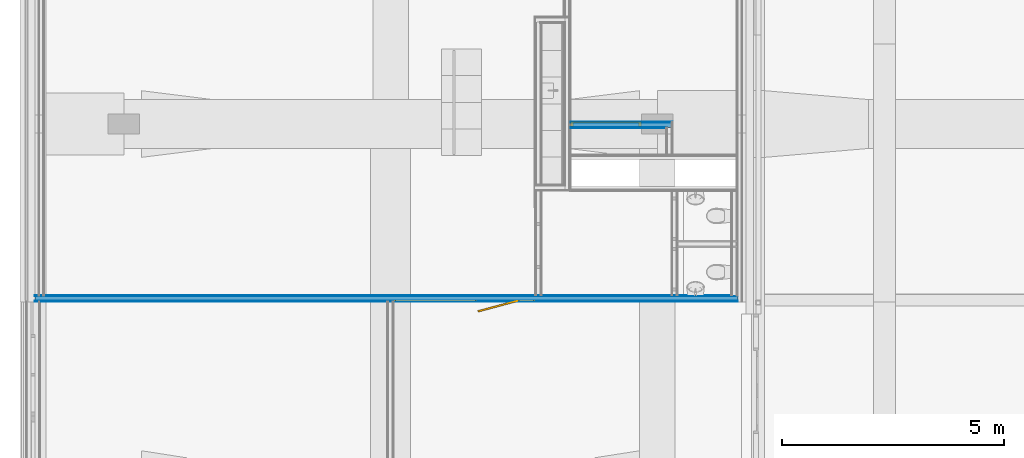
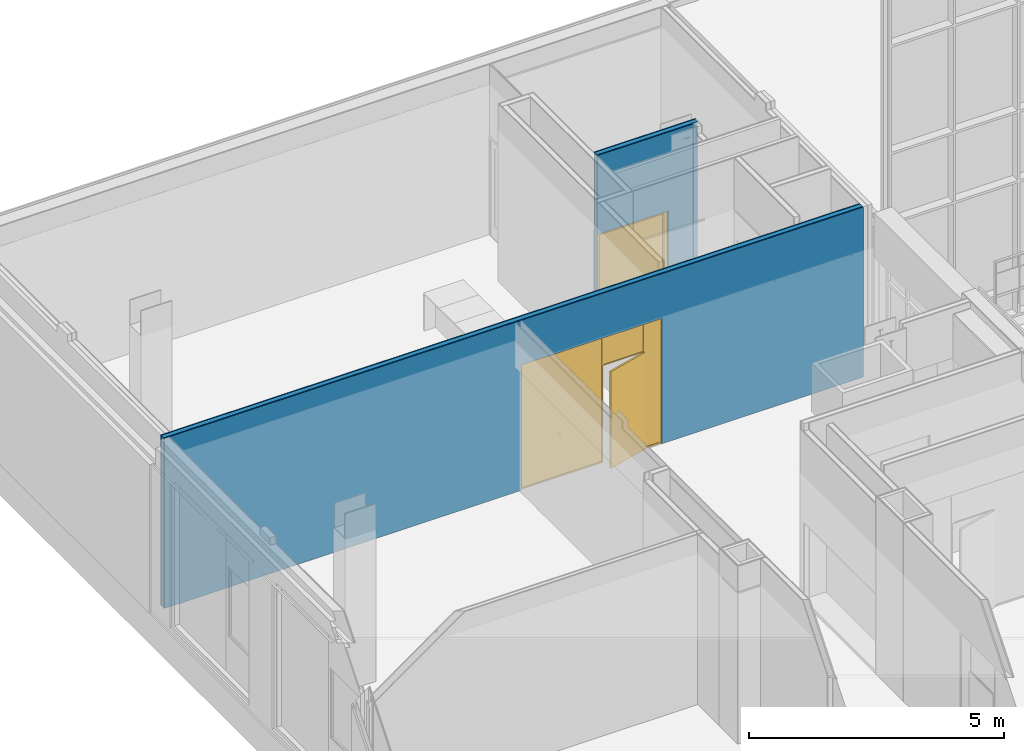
# One storey, part 72 of 94: 10 building element parts, 2 doors, 2 openings, 2 elements without a shape of their own.
"""IFC2X3 building model written with IfcOpenShell, lengths in millimetres."""

from ifc_helpers import new_model, entity, si_unit, converted_unit, derived_unit, money_unit, direction, frame, origin_with_axes, place, context, subcontext, project, spatial, open_shell, faceted_brep, surface_model, material, type_object, element, fill, aggregate, save


model = new_model("IFC2X3")

# Units and contexts
model_context = context("Model", 3, precision=0.01, world=origin_with_axes(), true_north=direction((0.0, 1.0)))
body_context = subcontext(model_context, "Body", "Model", "MODEL_VIEW")
ifc_project = project(units=[si_unit("LENGTHUNIT", "METRE", prefix="MILLI"), si_unit("AREAUNIT", "SQUARE_METRE"), si_unit("VOLUMEUNIT", "CUBIC_METRE"), converted_unit("PLANEANGLEUNIT", "DEGREE", entity("IfcPlaneAngleMeasure", 0.0174532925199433), si_unit("PLANEANGLEUNIT", "RADIAN"), dimensions=[0, 0, 0, 0, 0, 0, 0]), money_unit("EUR"), converted_unit("TIMEUNIT", "Year", entity("IfcTimeMeasure", 31557600.0), si_unit("TIMEUNIT", "SECOND"), dimensions=[0, 0, 1, 0, 0, 0, 0]), si_unit("MASSUNIT", "GRAM", prefix="KILO"), si_unit("THERMODYNAMICTEMPERATUREUNIT", "DEGREE_CELSIUS"), si_unit("LUMINOUSINTENSITYUNIT", "LUMEN"), si_unit("ENERGYUNIT", "JOULE", prefix="MEGA"), derived_unit("THERMALCONDUCTANCEUNIT", [(si_unit("POWERUNIT", "WATT"), 1), (si_unit("LENGTHUNIT", "METRE"), -1), (si_unit("THERMODYNAMICTEMPERATUREUNIT", "KELVIN"), -1)]), derived_unit("SPECIFICHEATCAPACITYUNIT", [(si_unit("ENERGYUNIT", "JOULE"), 1), (si_unit("MASSUNIT", "GRAM", prefix="KILO"), -1), (si_unit("THERMODYNAMICTEMPERATUREUNIT", "KELVIN"), -1)]), derived_unit("MASSDENSITYUNIT", [(si_unit("MASSUNIT", "GRAM", prefix="KILO"), 1), (si_unit("VOLUMEUNIT", "CUBIC_METRE"), -1)])], contexts=[model_context])

# Site, building, storey
site_placement = place(None, origin_with_axes())
site = spatial("IfcSite", under=ifc_project, at=site_placement, Name="<site naam>", CompositionType="ELEMENT")
building_placement = place(site_placement, origin_with_axes())
building = spatial("IfcBuilding", under=site, at=building_placement, Name="<Naam gebouw>", CompositionType="ELEMENT")
storey_placement = place(building_placement, frame((0.0, 0.0, 4250.0), z_axis=(0.0, 0.0, 1.0), x_axis=(1.0, 0.0, 0.0)))
storey = spatial("IfcBuildingStorey", under=building, at=storey_placement, Name="01 1e verdieping", CompositionType="ELEMENT", Elevation=4250.0)

# Door
door_style_1 = type_object("IfcDoorStyle", Name="D1 bl zl2 27", ConstructionType="NOTDEFINED", OperationType="USERDEFINED", ParameterTakesPrecedence=False, Sizeable=False)
wall_2_placement = place(storey_placement, frame((4000.044467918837, 12000.00000000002, 0.0), z_axis=(0.0, 0.0, 1.0), x_axis=(-1.0, 0.0, 0.0)))
opening_2_placement = place(wall_2_placement, frame((6337.521559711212, 0.0, 0.0), z_axis=(0.0, 0.0, 1.0), x_axis=(1.0, 0.0, 0.0)))
door_1_placement = place(opening_2_placement, frame((-1587.521530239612, 0.0, 0.0), z_axis=(0.0, 0.0, 1.0), x_axis=(1.0, 0.0, 0.0)))
door_1 = element("IfcDoor", 1, at=door_1_placement, inside=storey, type_object=door_style_1, Name="22_BI-F-14_305", ObjectType="DOOR", OverallHeight=3000.0, OverallWidth=3175.04, context=body_context, shape_type="SurfaceModel", body=[
    faceted_brep([(3175.043060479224, -25.00000000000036, 0.0), (3175.043060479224, -44.99999999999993, 0.0), (3142.043060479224, -44.99999999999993, 0.0), (3142.043060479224, -25.00000000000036, 0.0), (3175.043060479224, -25.00000000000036, 2967.0), (3175.043060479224, -44.99999999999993, 2967.0), (3142.043060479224, -44.99999999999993, 2967.0), (3142.043060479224, -44.99999999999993, 33.00000000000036), (3142.043060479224, -25.00000000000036, 33.00000000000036), (3142.043060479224, -25.00000000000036, 2967.0)], [[[0, 1, 2, 3]], [[4, 5, 1, 0]], [[1, 5, 6, 7, 2]], [[3, 2, 7, 8]], [[0, 3, 8, 9, 4]], [[9, 6, 5, 4]], [[8, 7, 6, 9]]]),
    faceted_brep([(1317.312980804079, -44.99999999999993, 0.0), (1342.312980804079, -44.99999999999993, 0.0), (1342.312980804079, -44.99999999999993, 32.99999999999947), (1342.312980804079, -44.99999999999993, 2967.0), (1300.312980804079, -44.99999999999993, 2967.0), (1300.312980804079, -44.99999999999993, 2333.0), (1300.312980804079, -44.99999999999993, 2317.0), (1317.312980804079, -44.99999999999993, 2317.0), (1317.312980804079, -25.00000000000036, 0.0), (1342.312980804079, -25.00000000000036, 0.0), (1342.312980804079, -25.00000000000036, 32.99999999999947), (1342.312980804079, -25.00000000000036, 2967.0), (1300.312980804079, -25.00000000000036, 2967.0), (1300.312980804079, -25.00000000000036, 2333.0), (1300.312980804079, -25.00000000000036, 2317.0), (1317.312980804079, -25.00000000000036, 2317.0)], [[[0, 1, 2, 3, 4, 5, 6, 7]], [[8, 9, 1, 0]], [[9, 10, 2, 1]], [[10, 11, 3, 2]], [[11, 12, 4, 3]], [[12, 13, 5, 4]], [[6, 5, 13, 14]], [[14, 15, 7, 6]], [[7, 15, 8, 0]], [[15, 14, 13, 12, 11, 10, 9, 8]]]),
    faceted_brep([(3142.043060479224, -25.00000000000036, 33.00000000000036), (3142.043060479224, -44.99999999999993, 33.00000000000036), (3142.043060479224, -44.99999999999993, 0.0), (3142.043060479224, -25.00000000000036, 0.0), (1342.312980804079, -25.00000000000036, 33.00000000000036), (1342.312980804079, -44.99999999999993, 33.00000000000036), (1342.312980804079, -44.99999999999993, 0.0), (1342.312980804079, -25.00000000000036, 0.0)], [[[0, 1, 2, 3]], [[4, 5, 1, 0]], [[1, 5, 6, 2]], [[3, 2, 6, 7]], [[0, 3, 7, 4]], [[7, 6, 5, 4]]]),
    faceted_brep([(0.0, -25.00000000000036, 0.0), (0.0, -44.99999999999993, 0.0), (0.0, -44.99999999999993, 2967.0), (0.0, -25.00000000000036, 2967.0), (32.99999999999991, -25.00000000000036, 0.0), (32.99999999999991, -44.99999999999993, 0.0), (32.99999999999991, -44.99999999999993, 33.00000000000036), (32.99999999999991, -44.99999999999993, 2967.0), (32.99999999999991, -25.00000000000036, 2967.0), (32.99999999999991, -25.00000000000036, 33.00000000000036)], [[[0, 1, 2, 3]], [[4, 5, 1, 0]], [[1, 5, 6, 7, 2]], [[3, 2, 7, 8]], [[0, 3, 8, 9, 4]], [[9, 6, 5, 4]], [[8, 7, 6, 9]]]),
    faceted_brep([(383.3129808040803, -44.99999999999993, 2317.0), (400.3129808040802, -44.99999999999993, 2317.0), (400.3129808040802, -44.99999999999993, 2333.0), (400.3129808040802, -44.99999999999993, 2967.0), (358.3129808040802, -44.99999999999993, 2967.0), (358.3129808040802, -44.99999999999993, 32.99999999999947), (358.3129808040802, -44.99999999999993, 0.0), (383.3129808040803, -44.99999999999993, 0.0), (383.3129808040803, -25.00000000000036, 2317.0), (400.3129808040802, -25.00000000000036, 2317.0), (400.3129808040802, -25.00000000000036, 2333.0), (400.3129808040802, -25.00000000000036, 2967.0), (358.3129808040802, -25.00000000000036, 2967.0), (358.3129808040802, -25.00000000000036, 32.99999999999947), (358.3129808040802, -25.00000000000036, 0.0), (383.3129808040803, -25.00000000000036, 0.0)], [[[0, 1, 2, 3, 4, 5, 6, 7]], [[0, 8, 9, 1]], [[9, 10, 2, 1]], [[10, 11, 3, 2]], [[11, 12, 4, 3]], [[12, 13, 5, 4]], [[13, 14, 6, 5]], [[7, 6, 14, 15]], [[7, 15, 8, 0]], [[8, 15, 14, 13, 12, 11, 10, 9]]]),
    faceted_brep([(358.3129808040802, -25.00000000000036, 33.00000000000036), (358.3129808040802, -44.99999999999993, 33.00000000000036), (358.3129808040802, -44.99999999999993, 0.0), (358.3129808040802, -25.00000000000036, 0.0), (32.99999999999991, -25.00000000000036, 33.00000000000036), (32.99999999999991, -44.99999999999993, 33.00000000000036), (32.99999999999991, -44.99999999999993, 0.0), (32.99999999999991, -25.00000000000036, 0.0)], [[[0, 1, 2, 3]], [[4, 5, 1, 0]], [[1, 5, 6, 2]], [[3, 2, 6, 7]], [[0, 3, 7, 4]], [[7, 6, 5, 4]]]),
    faceted_brep([(3175.043060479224, -25.00000000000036, 3000.0), (3175.043060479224, -44.99999999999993, 3000.0), (3175.043060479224, -44.99999999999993, 2967.0), (3175.043060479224, -25.00000000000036, 2967.0), (0.0, -25.00000000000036, 3000.0), (0.0, -44.99999999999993, 3000.0), (0.0, -44.99999999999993, 2967.0), (32.99999999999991, -44.99999999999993, 2967.0), (358.3129808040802, -44.99999999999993, 2967.0), (400.3129808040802, -44.99999999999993, 2967.0), (1300.312980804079, -44.99999999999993, 2967.0), (1342.312980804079, -44.99999999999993, 2967.0), (3142.043060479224, -44.99999999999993, 2967.0), (3142.043060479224, -25.00000000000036, 2967.0), (1342.312980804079, -25.00000000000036, 2967.0), (1300.312980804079, -25.00000000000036, 2967.0), (400.3129808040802, -25.00000000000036, 2967.0), (358.3129808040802, -25.00000000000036, 2967.0), (32.99999999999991, -25.00000000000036, 2967.0), (0.0, -25.00000000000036, 2967.0)], [[[0, 1, 2, 3]], [[4, 5, 1, 0]], [[1, 5, 6, 7, 8, 9, 10, 11, 12, 2]], [[3, 2, 12, 13]], [[0, 3, 13, 14, 15, 16, 17, 18, 19, 4]], [[19, 6, 5, 4]], [[18, 7, 6, 19]], [[17, 8, 7, 18]], [[16, 9, 8, 17]], [[15, 10, 9, 16]], [[14, 11, 10, 15]], [[13, 12, 11, 14]]]),
    faceted_brep([(1300.312980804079, -44.99999999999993, 2317.0), (1300.312980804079, -44.99999999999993, 2333.0), (400.3129808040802, -44.99999999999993, 2333.0), (400.3129808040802, -44.99999999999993, 2317.0), (1300.312980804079, -25.00000000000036, 2317.0), (1300.312980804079, -25.00000000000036, 2333.0), (400.3129808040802, -25.00000000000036, 2333.0), (400.3129808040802, -25.00000000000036, 2317.0)], [[[0, 1, 2, 3]], [[4, 5, 1, 0]], [[5, 6, 2, 1]], [[3, 2, 6, 7]], [[7, 4, 0, 3]], [[7, 6, 5, 4]]]),
    faceted_brep([(378.6542379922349, -7.613335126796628, 0.0), (1280.828959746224, 234.1236529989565, 0.0), (1291.181721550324, 195.4866199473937, 0.0), (389.0069997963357, -46.25036817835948, 0.0), (378.6542379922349, -7.613335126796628, 2317.0), (1280.828959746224, 234.1236529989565, 2317.0), (1291.181721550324, 195.4866199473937, 2317.0), (389.0069997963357, -46.25036817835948, 2317.0)], [[[0, 1, 2, 3]], [[0, 4, 5, 1]], [[1, 5, 6, 2]], [[3, 2, 6, 7]], [[4, 0, 3, 7]], [[5, 4, 7, 6]]]),
    surface_model("IfcShellBasedSurfaceModel", [(1300.312980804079, -51.00000000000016, 2333.0), (1300.312980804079, -51.00000000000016, 2967.0), (400.3129808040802, -51.00000000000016, 2967.0), (400.3129808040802, -51.00000000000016, 2333.0)], [open_shell([[[0, 1, 2, 3]]])]),
    surface_model("IfcShellBasedSurfaceModel", [(1300.312980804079, -38.9999999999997, 2333.0), (400.3129808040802, -38.9999999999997, 2333.0), (400.3129808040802, -38.9999999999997, 2967.0), (1300.312980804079, -38.9999999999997, 2967.0)], [open_shell([[[0, 1, 2, 3]]])]),
    surface_model("IfcShellBasedSurfaceModel", [(2244.678020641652, -51.00000000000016, 33.00000000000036), (3142.043060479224, -51.00000000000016, 33.00000000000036), (3142.043060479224, -51.00000000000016, 2967.0), (2244.678020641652, -51.00000000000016, 2967.0)], [open_shell([[[0, 1, 2, 3]]])]),
    surface_model("IfcShellBasedSurfaceModel", [(2244.678020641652, -38.9999999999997, 33.00000000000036), (2244.678020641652, -38.9999999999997, 2967.0), (3142.043060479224, -38.9999999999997, 2967.0), (3142.043060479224, -38.9999999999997, 33.00000000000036)], [open_shell([[[0, 1, 2, 3]]])]),
    surface_model("IfcShellBasedSurfaceModel", [(1342.312980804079, -51.00000000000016, 33.00000000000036), (2239.678020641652, -51.00000000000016, 33.00000000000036), (2239.678020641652, -51.00000000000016, 2967.0), (1342.312980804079, -51.00000000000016, 2967.0)], [open_shell([[[0, 1, 2, 3]]])]),
    surface_model("IfcShellBasedSurfaceModel", [(1342.312980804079, -38.9999999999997, 33.00000000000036), (1342.312980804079, -38.9999999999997, 2967.0), (2239.678020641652, -38.9999999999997, 2967.0), (2239.678020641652, -38.9999999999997, 33.00000000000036)], [open_shell([[[0, 1, 2, 3]]])]),
    faceted_brep([(2244.678020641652, -30.00000000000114, 33.00000000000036), (2239.678020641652, -30.00000000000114, 33.00000000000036), (2239.678020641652, -25.00000000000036, 33.00000000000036), (2244.678020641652, -25.00000000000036, 33.00000000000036), (2244.678020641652, -30.00000000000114, 2967.0), (2239.678020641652, -30.00000000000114, 2967.0), (2239.678020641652, -25.00000000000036, 2967.0), (2244.678020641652, -25.00000000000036, 2967.0)], [[[0, 1, 2, 3]], [[0, 4, 5, 1]], [[1, 5, 6, 2]], [[3, 2, 6, 7]], [[4, 0, 3, 7]], [[5, 4, 7, 6]]]),
    surface_model("IfcShellBasedSurfaceModel", [(358.3129808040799, -51.00000000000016, 33.00000000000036), (358.3129808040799, -51.00000000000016, 2967.0), (32.99999999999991, -51.00000000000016, 2967.0), (32.99999999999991, -51.00000000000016, 33.00000000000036)], [open_shell([[[0, 1, 2, 3]]])]),
    surface_model("IfcShellBasedSurfaceModel", [(358.3129808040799, -38.9999999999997, 33.00000000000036), (32.99999999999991, -38.9999999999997, 33.00000000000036), (32.99999999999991, -38.9999999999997, 2967.0), (358.3129808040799, -38.9999999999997, 2967.0)], [open_shell([[[0, 1, 2, 3]]])]),
])

door_style_2 = type_object("IfcDoorStyle", Name="D2 27", ConstructionType="NOTDEFINED", OperationType="DOUBLE_DOOR_SINGLE_SWING", ParameterTakesPrecedence=False, Sizeable=False)
wall_1_placement = place(storey_placement, frame((49.77833154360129, 16050.0, 0.0), z_axis=(0.0, 0.0, 1.0), x_axis=(1.0, 0.0, 0.0)))
opening_1_placement = place(wall_1_placement, frame((800.1214743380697, 0.0, 0.0), z_axis=(0.0, 0.0, 1.0), x_axis=(1.0, 0.0, 0.0)))
door_2_placement = place(opening_1_placement, frame((-800.100194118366, 0.0, 0.0), z_axis=(0.0, 0.0, 1.0), x_axis=(1.0, 0.0, 0.0)))
door_2 = element("IfcDoor", 2, at=door_2_placement, inside=storey, type_object=door_style_2, Name="22_BI-B-02_305", ObjectType="DOOR", OverallHeight=2367.0, OverallWidth=1600.2, context=body_context, shape_type="Brep", body=[
    faceted_brep([(67.0000000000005, -30.00000000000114, 0.0), (67.00000000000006, -30.00000000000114, 2300.0), (67.00000000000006, -104.000000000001, 2300.0), (67.00000000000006, -104.0000000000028, 0.0), (50.00000000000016, -30.00000000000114, 2300.0), (50.00000000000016, -30.00000000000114, 0.0), (50.00000000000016, 9.99999999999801, 2300.0), (0.0, 9.99999999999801, 2300.0), (0.0, -104.000000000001, 2300.0), (0.0, -104.0000000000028, 0.0), (0.0, 9.99999999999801, 0.0), (50.00000000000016, 9.99999999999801, 0.0)], [[[0, 1, 2, 3]], [[4, 1, 0, 5]], [[4, 6, 7, 8, 2, 1]], [[3, 2, 8, 9]], [[5, 0, 3, 9, 10, 11]], [[6, 4, 5, 11]], [[6, 11, 10, 7]], [[10, 9, 8, 7]]]),
    faceted_brep([(1550.200388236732, -30.00000000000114, 2300.0), (1533.200388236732, -30.00000000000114, 2300.0), (1533.200388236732, -104.000000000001, 2300.0), (1600.200388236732, -104.000000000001, 2300.0), (1600.200388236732, 9.99999999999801, 2300.0), (1550.200388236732, 9.99999999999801, 2300.0), (1550.200388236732, -30.00000000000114, 0.0), (1533.200388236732, -30.00000000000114, 0.0), (1533.200388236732, -104.0000000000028, 0.0), (1600.200388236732, -104.0000000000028, 0.0), (1600.200388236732, 9.99999999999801, 0.0), (1550.200388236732, 9.99999999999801, 0.0)], [[[0, 1, 2, 3, 4, 5]], [[1, 0, 6, 7]], [[1, 7, 8, 2]], [[3, 2, 8, 9]], [[4, 3, 9, 10]], [[11, 5, 4, 10]], [[0, 5, 11, 6]], [[6, 11, 10, 9, 8, 7]]]),
    faceted_brep([(50.00000000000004, 9.99999999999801, 2317.0), (50.00000000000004, 9.99999999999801, 2300.0), (0.0, 9.99999999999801, 2300.0), (0.0, 9.99999999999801, 2367.0), (1600.200388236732, 9.99999999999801, 2367.0), (1600.200388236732, 9.99999999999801, 2300.0), (1550.200388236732, 9.99999999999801, 2300.0), (1550.200388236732, 9.99999999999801, 2317.0), (50.00000000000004, -30.00000000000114, 2317.0), (50.00000000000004, -30.00000000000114, 2300.0), (67.00000000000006, -30.00000000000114, 2300.0), (67.00000000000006, -104.000000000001, 2300.0), (0.0, -104.000000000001, 2300.0), (0.0, -104.000000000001, 2367.0), (1600.200388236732, -104.000000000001, 2367.0), (1600.200388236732, -104.000000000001, 2300.0), (1550.200388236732, -30.00000000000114, 2300.0), (1533.200388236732, -104.000000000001, 2300.0), (1533.200388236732, -30.00000000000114, 2300.0), (1550.200388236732, -30.00000000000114, 2317.0)], [[[0, 1, 2, 3, 4, 5, 6, 7]], [[1, 0, 8, 9]], [[9, 10, 11, 12, 2, 1]], [[2, 12, 13, 3]], [[3, 13, 14, 4]], [[4, 14, 15, 5]], [[16, 6, 5, 15, 17, 18]], [[7, 6, 16, 19]], [[0, 7, 19, 8]], [[16, 18, 10, 9, 8, 19]], [[10, 18, 17, 11]], [[17, 15, 14, 13, 12, 11]]]),
    faceted_brep([(1550.200388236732, 9.99999999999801, 0.0), (1550.200388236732, -30.00000000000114, 0.0), (800.1001941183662, -30.00000000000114, 0.0), (800.1001941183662, 9.99999999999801, 0.0), (1550.200388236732, 9.99999999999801, 2317.0), (1550.200388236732, -30.00000000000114, 2317.0), (800.1001941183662, -30.00000000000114, 2317.0), (800.1001941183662, 9.99999999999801, 2317.0)], [[[0, 1, 2, 3]], [[4, 5, 1, 0]], [[1, 5, 6, 2]], [[3, 2, 6, 7]], [[0, 3, 7, 4]], [[7, 6, 5, 4]]]),
    faceted_brep([(50.00000000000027, 9.99999999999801, 0.0), (800.1001941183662, 9.99999999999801, 0.0), (800.1001941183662, -30.00000000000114, 0.0), (50.00000000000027, -30.00000000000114, 0.0), (50.00000000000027, 9.99999999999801, 2317.0), (800.1001941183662, 9.99999999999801, 2317.0), (800.1001941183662, -30.00000000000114, 2317.0), (50.00000000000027, -30.00000000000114, 2317.0)], [[[0, 1, 2, 3]], [[0, 4, 5, 1]], [[1, 5, 6, 2]], [[3, 2, 6, 7]], [[4, 0, 3, 7]], [[5, 4, 7, 6]]]),
])

# Wall, opening
wall_type = type_object("IfcWallType", Name="MS-01 GF 150 ECO DGS/2.100.2.A 150", PredefinedType="NOTDEFINED")
wall_1 = element("IfcWall", 3, at=wall_1_placement, inside=storey, type_object=wall_type, Name="22_Binnenwand_MS-01")
opening_1 = element("IfcOpeningElement", 4, at=opening_1_placement, cuts=wall_1, Name="22_BI-B-02_305", context=body_context, shape_type="Brep", body=[
    faceted_brep([(-800.100194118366, -150.9999999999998, 2367.0), (-800.100194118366, -150.9999999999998, 0.0), (800.100194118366, -150.9999999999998, 0.0), (800.100194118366, -150.9999999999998, 2367.0), (-800.100194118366, 1.000000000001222, 2367.0), (-800.100194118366, 1.000000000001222, 0.0), (800.100194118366, 1.000000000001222, 0.0), (800.100194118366, 1.000000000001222, 2367.0)], [[[0, 1, 2, 3]], [[4, 5, 1, 0]], [[5, 6, 2, 1]], [[6, 7, 3, 2]], [[7, 4, 0, 3]], [[6, 5, 4, 7]]]),
])

fill(opening_1, door_2)

# Building element part
ifc_material_1 = material(Name="isolatie_steenwol LSW")
building_element_part_1_placement = place(wall_1_placement, origin_with_axes())
building_element_part_1 = element("IfcBuildingElementPart", 5, at=building_element_part_1_placement, material=ifc_material_1, Name="isolatie_steenwol LSW", context=body_context, shape_type="Brep", body=[
    faceted_brep([(2275.221668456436, -24.99999999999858, 4250.0), (0.003546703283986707, -24.99999999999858, 4250.0), (0.0177335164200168, -125.0, 4250.0), (2275.221668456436, -125.0, 4250.0), (2275.221668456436, -24.99999999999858, 0.0), (0.003546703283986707, -24.99999999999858, 0.0), (0.0177335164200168, -125.0, 0.0), (2275.221668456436, -125.0, 0.0)], [[[0, 1, 2, 3]], [[4, 5, 1, 0]], [[2, 1, 5, 6]], [[3, 2, 6, 7]], [[3, 7, 4, 0]], [[7, 6, 5, 4]]]),
])

ifc_material_2 = material(Name="gipsplaat")
building_element_part_2_placement = place(wall_1_placement, origin_with_axes())
building_element_part_2 = element("IfcBuildingElementPart", 6, at=building_element_part_2_placement, material=ifc_material_2, Name="gipsplaat", context=body_context, shape_type="Brep", body=[
    faceted_brep([(2287.721668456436, -12.49999999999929, 4250.0), (0.001773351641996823, -12.49999999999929, 4250.0), (0.003546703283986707, -24.99999999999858, 4250.0), (2287.721668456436, -24.99999999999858, 4250.0), (2287.721668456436, -12.49999999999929, 0.0), (0.001773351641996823, -12.49999999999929, 0.0), (0.003546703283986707, -24.99999999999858, 0.0), (2287.721668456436, -24.99999999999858, 0.0)], [[[0, 1, 2, 3]], [[4, 5, 1, 0]], [[2, 1, 5, 6]], [[3, 2, 6, 7]], [[3, 7, 4, 0]], [[7, 6, 5, 4]]]),
])

building_element_part_3_placement = place(wall_1_placement, origin_with_axes())
building_element_part_3 = element("IfcBuildingElementPart", 7, at=building_element_part_3_placement, material=ifc_material_2, Name="gipsplaat", context=body_context, shape_type="Brep", body=[
    faceted_brep([(2175.221668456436, -125.0, 4250.0), (0.01773351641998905, -125.0, 4250.0), (0.01950686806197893, -137.4999999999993, 4250.0), (2175.221668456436, -137.4999999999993, 4250.0), (2175.221668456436, -125.0, 0.0), (0.01773351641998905, -125.0, 0.0), (0.01950686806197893, -137.4999999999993, 0.0), (2175.221668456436, -137.4999999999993, 0.0)], [[[0, 1, 2, 3]], [[4, 5, 1, 0]], [[2, 1, 5, 6]], [[3, 2, 6, 7]], [[3, 7, 4, 0]], [[7, 6, 5, 4]]]),
])

building_element_part_4_placement = place(wall_1_placement, origin_with_axes())
building_element_part_4 = element("IfcBuildingElementPart", 8, at=building_element_part_4_placement, material=ifc_material_2, Name="gipsplaat", context=body_context, shape_type="Brep", body=[
    faceted_brep([(2300.221668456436, 0.0, 4250.0), (0.0, 0.0, 4250.0), (0.001773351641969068, -12.49999999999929, 4250.0), (2300.221668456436, -12.49999999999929, 4250.0), (2300.221668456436, 0.0, 0.0), (0.0, 0.0, 0.0), (0.001773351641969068, -12.49999999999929, 0.0), (2300.221668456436, -12.49999999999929, 0.0)], [[[0, 1, 2, 3]], [[4, 5, 1, 0]], [[2, 1, 5, 6]], [[3, 2, 6, 7]], [[3, 7, 4, 0]], [[7, 6, 5, 4]]]),
])

building_element_part_5_placement = place(wall_1_placement, origin_with_axes())
building_element_part_5 = element("IfcBuildingElementPart", 9, at=building_element_part_5_placement, material=ifc_material_2, Name="gipsplaat", context=body_context, shape_type="Brep", body=[
    faceted_brep([(2162.721668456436, -137.4999999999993, 4250.0), (0.01950686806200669, -137.4999999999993, 4250.0), (0.02128021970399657, -150.0000000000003, 4250.0), (2162.721668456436, -150.0000000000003, 4250.0), (2162.721668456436, -137.4999999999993, 0.0), (0.01950686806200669, -137.4999999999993, 0.0), (0.02128021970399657, -150.0000000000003, 0.0), (2162.721668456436, -150.0000000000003, 0.0)], [[[0, 1, 2, 3]], [[4, 5, 1, 0]], [[2, 1, 5, 6]], [[3, 2, 6, 7]], [[3, 7, 4, 0]], [[7, 6, 5, 4]]]),
])

aggregate(wall_1, [building_element_part_1, building_element_part_2, building_element_part_3, building_element_part_4, building_element_part_5])

# Wall, opening
wall_2 = element("IfcWall", 10, at=wall_2_placement, inside=storey, type_object=wall_type, Name="22_Binnenwand_MS-01")
opening_2 = element("IfcOpeningElement", 11, at=opening_2_placement, cuts=wall_2, Name="22_BI-F-14_305", context=body_context, shape_type="Brep", body=[
    faceted_brep([(-1587.521530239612, -25.00000000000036, 0.0), (-1587.521530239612, -25.00000000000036, 3000.0), (-1587.521530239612, 0.9999999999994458, 3000.0), (-1587.521530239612, 0.9999999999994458, 0.0), (-1587.521530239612, -150.9999999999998, 0.0), (-1587.521530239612, -150.9999999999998, 3000.0), (1587.521530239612, -25.00000000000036, 3000.0), (1587.521530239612, 0.9999999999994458, 3000.0), (1587.521530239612, -150.9999999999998, 3000.0), (1587.521530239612, 0.9999999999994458, 0.0), (1587.521530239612, -25.00000000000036, 0.0), (1587.521530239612, -150.9999999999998, 0.0)], [[[0, 1, 2, 3]], [[1, 0, 4, 5]], [[6, 7, 2, 1, 5, 8]], [[7, 9, 3, 2]], [[0, 3, 9, 10, 11, 4]], [[5, 4, 11, 8]], [[6, 10, 9, 7]], [[10, 6, 8, 11]]]),
])

fill(opening_2, door_1)

# Building element part
building_element_part_6_placement = place(wall_2_placement, origin_with_axes())
building_element_part_6 = element("IfcBuildingElementPart", 12, at=building_element_part_6_placement, material=ifc_material_2, Name="gipsplaat", context=body_context, shape_type="Brep", body=[
    faceted_brep([(16000.0444679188, -12.50000000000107, 4070.000000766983), (189.9999997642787, -12.49999999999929, 4070.000000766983), (189.9999997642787, -12.49999999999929, 0.0), (4749.999876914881, -12.49999999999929, 0.0), (4749.999876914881, -12.49999999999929, 3.000000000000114), (7925.044202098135, -12.49999999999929, 3.000000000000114), (7925.044202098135, -12.49999999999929, 0.0), (16000.0444679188, -12.50000000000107, 0.0), (189.9999997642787, 0.0, 4070.000000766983), (16000.0444679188, 0.0, 4070.000000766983), (15657.80288010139, -0.002786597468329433, 4070.000000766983), (15523.23542206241, 2.8318645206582e-06, 4070.000000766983), (189.9999997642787, 0.0, 3040.0), (189.9999997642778, -0.08132446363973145, 3040.0), (189.9999997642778, -0.08132446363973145, 3000.0), (189.9999997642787, 0.0, 3000.0), (189.9999997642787, 0.0, 0.0), (4749.999876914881, 6.681627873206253e-05, 0.0), (4749.999876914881, 6.681627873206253e-05, 3.000000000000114), (7925.044303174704, -0.06574821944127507, 3.000000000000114), (7925.044303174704, -0.06574821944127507, 0.0), (16000.0444679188, 0.0, 0.0), (7925.044514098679, -5.030840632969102e-05, 3000.0), (7925.044514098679, -5.249408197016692e-05, 3040.0), (7925.044514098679, -0.08132446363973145, 3040.0), (7925.044514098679, -0.08132446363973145, 3000.0)], [[[0, 1, 2, 3, 4, 5, 6, 7]], [[8, 1, 0, 9, 10, 11]], [[1, 8, 12, 13, 14, 15, 16, 2]], [[2, 16, 17, 3]], [[17, 18, 4, 3]], [[18, 19, 5, 4]], [[19, 20, 6, 5]], [[21, 7, 6, 20]], [[9, 0, 7, 21]], [[10, 9, 21, 20, 19]], [[11, 10, 19, 18]], [[8, 11, 18, 17, 16, 15, 22, 23, 12]], [[24, 13, 12, 23]], [[25, 14, 13, 24]], [[22, 15, 14, 25]], [[24, 23, 22, 25]]]),
])

building_element_part_7_placement = place(wall_2_placement, origin_with_axes())
building_element_part_7 = element("IfcBuildingElementPart", 13, at=building_element_part_7_placement, material=ifc_material_2, Name="gipsplaat", context=body_context, shape_type="Brep", body=[
    faceted_brep([(16000.0444679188, -25.00000000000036, 4070.000000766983), (189.9999997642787, -25.00000000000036, 4070.000000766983), (189.9999997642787, -25.00000000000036, 0.0), (4749.999876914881, -25.00000000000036, 0.0), (4749.999876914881, -25.00000000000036, 3.000000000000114), (7925.044100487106, -25.00000000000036, 3.000000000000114), (7925.044100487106, -25.00000000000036, 0.0), (16000.0444679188, -25.00000000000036, 0.0), (189.9999997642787, -12.49999999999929, 4070.000000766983), (16000.0444679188, -12.50000000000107, 4070.000000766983), (189.9999997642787, -12.49999999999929, 0.0), (4749.999876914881, -12.49999999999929, 0.0), (4749.999876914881, -12.50000000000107, 3.000000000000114), (7925.044202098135, -12.50000000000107, 3.000000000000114), (7925.044202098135, -12.49999999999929, 0.0), (16000.0444679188, -12.50000000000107, 0.0)], [[[0, 1, 2, 3, 4, 5, 6, 7]], [[8, 1, 0, 9]], [[1, 8, 10, 2]], [[10, 11, 3, 2]], [[12, 4, 3, 11]], [[13, 5, 4, 12]], [[14, 6, 5, 13]], [[7, 6, 14, 15]], [[9, 0, 7, 15]], [[8, 9, 15, 14, 13, 12, 11, 10]]]),
])

building_element_part_8_placement = place(wall_2_placement, origin_with_axes())
building_element_part_8 = element("IfcBuildingElementPart", 14, at=building_element_part_8_placement, material=ifc_material_2, Name="gipsplaat", context=body_context, shape_type="Brep", body=[
    faceted_brep([(16000.0444679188, -137.5000000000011, 4070.000000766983), (189.9999997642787, -137.4999999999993, 4070.000000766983), (189.9999997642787, -137.4999999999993, 0.0), (1564.99998329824, -137.4999999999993, 0.0), (1564.99998329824, -137.4999999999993, 3.000000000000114), (7925.043185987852, -137.5000000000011, 3.000000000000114), (7925.043185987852, -137.4999999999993, 0.0), (16000.0444679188, -137.5000000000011, 0.0), (189.9999997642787, -125.0, 4070.000000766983), (16000.0444679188, -125.0, 4070.000000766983), (189.9999997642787, -125.0, 0.0), (1564.99998329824, -125.0, 0.0), (1564.99998329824, -125.0, 3.000000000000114), (7925.04328759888, -125.0, 3.000000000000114), (7925.04328759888, -125.0, 0.0), (16000.0444679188, -125.0000000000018, 0.0)], [[[0, 1, 2, 3, 4, 5, 6, 7]], [[8, 1, 0, 9]], [[1, 8, 10, 2]], [[10, 11, 3, 2]], [[12, 4, 3, 11]], [[5, 4, 12, 13]], [[14, 6, 5, 13]], [[7, 6, 14, 15]], [[9, 0, 7, 15]], [[8, 9, 15, 14, 13, 12, 11, 10]]]),
])

building_element_part_9_placement = place(wall_2_placement, origin_with_axes())
building_element_part_9 = element("IfcBuildingElementPart", 15, at=building_element_part_9_placement, material=ifc_material_1, Name="isolatie_steenwol LSW", context=body_context, shape_type="Brep", body=[
    faceted_brep([(16000.0444679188, -125.0, 4070.000000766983), (189.9999997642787, -125.0, 4070.000000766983), (189.9999997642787, -125.0, 0.0), (1564.99998329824, -125.0, 0.0), (1564.99998329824, -125.0, 3.000000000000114), (7925.04328759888, -125.0000000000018, 3.000000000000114), (7925.04328759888, -125.0, 0.0), (16000.0444679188, -125.0000000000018, 0.0), (189.9999997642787, -25.00000000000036, 4070.000000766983), (16000.0444679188, -25.00000000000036, 4070.000000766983), (189.9999997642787, -25.00000000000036, 0.0), (4750.00002858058, -113.688690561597, 0.0), (1564.99998329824, -113.688690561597, 0.0), (4749.999876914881, -25.00000000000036, 0.0), (1564.99998329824, -113.688690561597, 3.000000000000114), (4750.00002858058, -113.688690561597, 3.000000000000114), (4749.999876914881, -25.00000000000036, 3.000000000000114), (7925.044100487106, -25.00000000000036, 3.000000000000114), (7925.044100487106, -25.00000000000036, 0.0), (16000.0444679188, -25.00000000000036, 0.0)], [[[0, 1, 2, 3, 4, 5, 6, 7]], [[8, 1, 0, 9]], [[1, 8, 10, 2]], [[11, 12, 3, 2, 10, 13]], [[14, 4, 3, 12]], [[5, 4, 14, 15, 16, 17]], [[18, 6, 5, 17]], [[7, 6, 18, 19]], [[9, 0, 7, 19]], [[8, 9, 19, 18, 17, 16, 13, 10]], [[14, 12, 11, 15]], [[16, 15, 11, 13]]]),
])

building_element_part_10_placement = place(wall_2_placement, origin_with_axes())
building_element_part_10 = element("IfcBuildingElementPart", 16, at=building_element_part_10_placement, material=ifc_material_2, Name="gipsplaat", context=body_context, shape_type="Brep", body=[
    faceted_brep([(16000.0444679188, -150.0000000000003, 4070.000000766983), (202.499999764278, -150.0000000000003, 4070.000000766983), (202.499999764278, -150.0000000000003, 0.0), (1564.99998329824, -150.0000000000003, 0.0), (1564.99998329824, -149.9999999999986, 3.000000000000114), (7925.043084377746, -149.9998864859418, 3.000000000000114), (7925.043084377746, -149.9998864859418, 0.0), (16000.0444679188, -150.0000000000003, 0.0), (202.499999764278, -137.4999999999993, 4070.000000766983), (16000.0444679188, -137.5000000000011, 4070.000000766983), (202.499999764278, -137.4999999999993, 0.0), (1564.99998329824, -137.4999999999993, 0.0), (1564.99998329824, -137.4999999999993, 3.000000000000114), (7925.043185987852, -137.5000000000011, 3.000000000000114), (7925.043185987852, -137.4999999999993, 0.0), (16000.0444679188, -137.5000000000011, 0.0)], [[[0, 1, 2, 3, 4, 5, 6, 7]], [[8, 1, 0, 9]], [[1, 8, 10, 2]], [[10, 11, 3, 2]], [[12, 4, 3, 11]], [[5, 4, 12, 13]], [[14, 6, 5, 13]], [[7, 6, 14, 15]], [[9, 0, 7, 15]], [[8, 9, 15, 14, 13, 12, 11, 10]]]),
])

aggregate(wall_2, [building_element_part_6, building_element_part_7, building_element_part_8, building_element_part_9, building_element_part_10])

save(model, "model.ifc")
